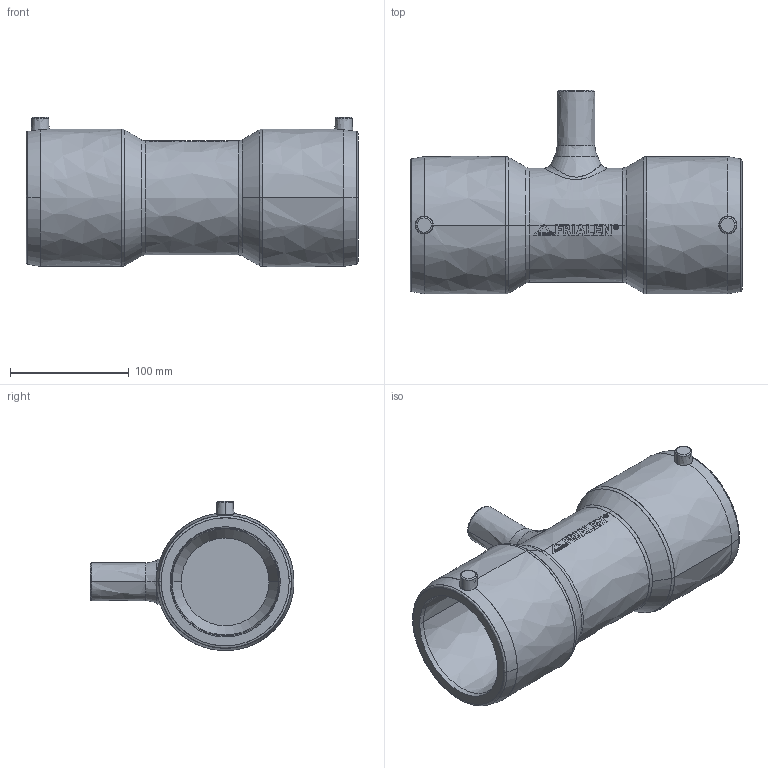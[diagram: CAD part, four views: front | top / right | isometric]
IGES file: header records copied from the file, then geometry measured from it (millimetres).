
Start section:  PTC IGES file: ta-red_d90_d32_01.igs
Global section: file name: ta-red_d90_d32_01.igs; native system: Creo Parametric by PTC Inc.; preprocessor: 2019030; author: jungmang; organization: Unknown; date: 20201218.111347; units: millimetre
Bounding box: 280 x 172 x 125.83 mm (x, y, z)
Surface area: 174393.7 mm2 (no closed solid volume)
Topology: 0 solids, 0 shells, 282 faces, 1478 edges, 1478 vertices
Faces by surface type: bspline 282
